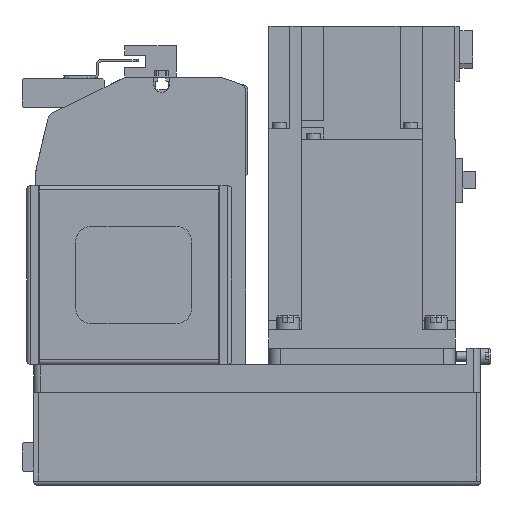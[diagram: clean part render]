
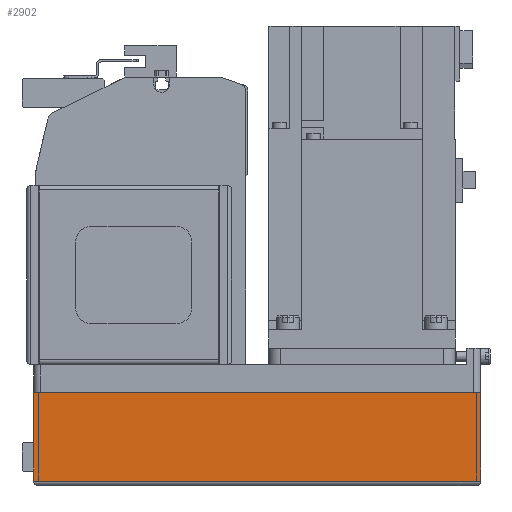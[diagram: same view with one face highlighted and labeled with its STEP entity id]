
A CAD part, left-side view. The second image highlights one B-rep face of the part: STEP entity #2902.
In plain terms, the highlighted planar face has unit normal (-1, 0, 0) as drawn and (0, 1, 0) by its records, which use the part's own axes.
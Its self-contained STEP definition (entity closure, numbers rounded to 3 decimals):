
#2902 = ADVANCED_FACE( '', ( #5992 ), #5993, .T. );
#5992 = FACE_OUTER_BOUND( '', #9114, .T. );
#5993 = PLANE( '', #9115 );
#9114 = EDGE_LOOP( '', ( #17418, #17419, #17420, #17421 ) );
#9115 = AXIS2_PLACEMENT_3D( '', #17422, #17423, #17424 );
#17418 = ORIENTED_EDGE( '', *, *, #18844, .F. );
#17419 = ORIENTED_EDGE( '', *, *, #19655, .F. );
#17420 = ORIENTED_EDGE( '', *, *, #21231, .T. );
#17421 = ORIENTED_EDGE( '', *, *, #21192, .T. );
#17422 = CARTESIAN_POINT( '', ( -192., 40., -50. ) );
#17423 = DIRECTION( '', ( 0., 1., 0. ) );
#17424 = DIRECTION( '', ( 0., 0., 1. ) );
#18844 = EDGE_CURVE( '', #22884, #22886, #22887, .T. );
#19655 = EDGE_CURVE( '', #24156, #22884, #24159, .T. );
#21192 = EDGE_CURVE( '', #24038, #22886, #26176, .T. );
#21231 = EDGE_CURVE( '', #24156, #24038, #26217, .T. );
#22884 = VERTEX_POINT( '', #28432 );
#22886 = VERTEX_POINT( '', #28435 );
#22887 = LINE( '', #28436, #28437 );
#24038 = VERTEX_POINT( '', #30070 );
#24156 = VERTEX_POINT( '', #30228 );
#24159 = LINE( '', #30231, #30232 );
#26176 = LINE( '', #33281, #33282 );
#26217 = LINE( '', #33339, #33340 );
#28432 = CARTESIAN_POINT( '', ( 0., 40., -50. ) );
#28435 = CARTESIAN_POINT( '', ( 0., 40., -12.1 ) );
#28436 = CARTESIAN_POINT( '', ( 0., 40., -50. ) );
#28437 = VECTOR( '', #34610, 1000. );
#30070 = CARTESIAN_POINT( '', ( -192., 40., -12.1 ) );
#30228 = CARTESIAN_POINT( '', ( -192., 40., -50. ) );
#30231 = CARTESIAN_POINT( '', ( -192., 40., -50. ) );
#30232 = VECTOR( '', #35592, 1000. );
#33281 = CARTESIAN_POINT( '', ( -192., 40., -12.1 ) );
#33282 = VECTOR( '', #37226, 1000. );
#33339 = CARTESIAN_POINT( '', ( -192., 40., -50. ) );
#33340 = VECTOR( '', #37244, 1000. );
#34610 = DIRECTION( '', ( 0., 0., 1. ) );
#35592 = DIRECTION( '', ( 1., 0., 0. ) );
#37226 = DIRECTION( '', ( 1., 0., 0. ) );
#37244 = DIRECTION( '', ( 0., 0., 1. ) );
